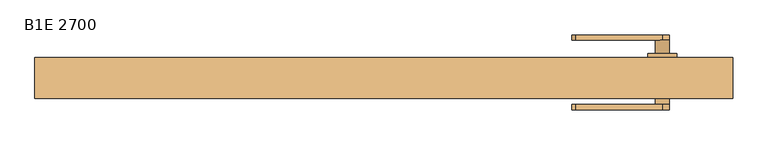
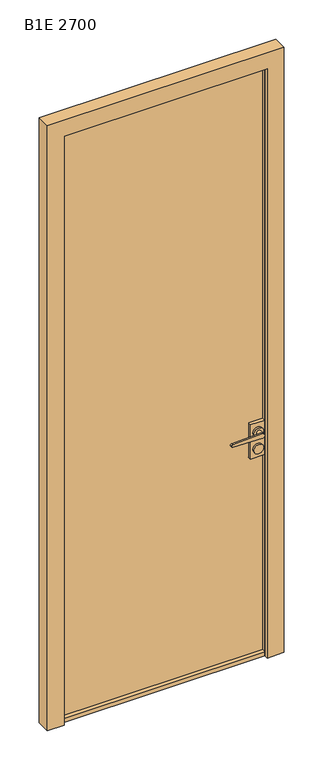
"""IFC4 building model written with IfcOpenShell, lengths in millimetres: door geometry, Mobiliário_Mobiliário de Escritório_Porta de Giro Emoldurada - BE_Marelli : B1E 2700."""

from ifc_helpers import new_model, si_unit, point, frame, frame_2d, origin, place, context, project, spatial, polyline, circle_curve, trimmed, segment, composite_curve, outline, extrude, faceted_brep, source, transform, mapped, element, save
from ifc_brep_helpers import plane_surface, cylinder_surface, advanced_brep


def b1e_2700_324aea1f(model_context):
    return source(origin(), model_context, "Body", "SolidModel", [
        extrude(outline(polyline([(-447.5, 16.5), (-429.5, 16.5), (-429.5, -25.5), (-447.5, -25.5), (-447.5, 16.5)])), frame((0.0, 0.0, 0.2), z_axis=(0.0, 0.0, 1.0), x_axis=(1.0, 0.0, 0.0)), (0.0, 0.0, 1.0), 2648.3),
        extrude(outline(polyline([(447.5, 16.5), (447.5, -25.5), (429.5, -25.5), (429.5, 16.5), (447.5, 16.5)])), frame((0.0, 0.0, 0.2), z_axis=(0.0, 0.0, 1.0), x_axis=(1.0, 0.0, 0.0)), (0.0, 0.0, 1.0), 2648.3),
        extrude(outline(polyline([(2630.5, 429.5), (2630.5, -429.5), (18.2, -429.5), (18.2, 429.5), (896.8, 429.5), (896.8, 369.5), (1050.0, 369.5), (1050.0, 429.5), (2630.5, 429.5)])), frame((0.0, -8.5, 0.0), z_axis=(0.0, 1.0, 0.0), x_axis=(0.0, 0.0, 1.0)), (0.0, 0.0, 1.0), 8.0),
        faceted_brep([(-500.0, -42.5, 0.0), (-500.0, 16.5, 0.0), (-450.0, 16.5, 0.0), (-450.0, -27.0, 0.0), (-429.0, -27.0, 0.0), (-429.0, -42.5, 0.0), (500.0, -42.5, 0.0), (429.0, -42.5, 0.0), (429.0, -27.0, 0.0), (450.0, -27.0, 0.0), (450.0, 16.5, 0.0), (500.0, 16.5, 0.0), (-500.0, -42.5, 2700.0), (-500.0, 16.5, 2700.0), (500.0, 16.5, 2700.0), (450.0, 16.5, 2650.0), (-450.0, 16.5, 2650.0), (-450.0, -27.0, 2650.0), (450.0, -27.0, 2650.0), (429.0, -27.0, 2629.0), (-429.0, -27.0, 2629.0), (-429.0, -42.5, 2629.0), (500.0, -42.5, 2700.0), (429.0, -42.5, 2629.0)], [[[0, 1, 2, 3, 4, 5]], [[6, 7, 8, 9, 10, 11]], [[0, 12, 13, 1]], [[13, 14, 11, 10, 15, 16, 2, 1]], [[17, 3, 2, 16]], [[4, 3, 17, 18, 9, 8, 19, 20]], [[5, 4, 20, 21]], [[22, 12, 0, 5, 21, 23, 7, 6]], [[8, 7, 23, 19]], [[10, 9, 18, 15]], [[14, 22, 6, 11]], [[22, 14, 13, 12]], [[20, 19, 23, 21]], [[16, 15, 18, 17]]]),
        extrude(outline(polyline([(429.5, 16.5), (429.5, -25.5), (-429.5, -25.5), (-429.5, 16.5), (429.5, 16.5)])), frame((0.0, 0.0, 2630.5), z_axis=(0.0, 0.0, 1.0), x_axis=(1.0, 0.0, 0.0)), (0.0, 0.0, 1.0), 18.0),
        extrude(outline(polyline([(369.5, -23.55), (369.5, 14.55), (429.5, 14.55), (429.5, -23.55), (369.5, -23.55)])), frame((0.0, 0.0, 896.8), z_axis=(0.0, 0.0, 1.0), x_axis=(1.0, 0.0, 0.0)), (0.0, 0.0, 1.0), 153.2),
        extrude(outline(polyline([(429.5, 16.5), (429.5, -25.5), (-429.5, -25.5), (-429.5, 16.5), (429.5, 16.5)])), frame((0.0, 0.0, 0.2), z_axis=(0.0, 0.0, 1.0), x_axis=(1.0, 0.0, 0.0)), (0.0, 0.0, 1.0), 18.0),
        extrude(outline(composite_curve([segment(trimmed(circle_curve(frame_2d((936.55, 399.5)), 20.75), [point((936.55, 378.75))], [point((936.55, 420.25))], False, "CARTESIAN"), True, "CONTINUOUS"), segment(trimmed(circle_curve(frame_2d((936.55, 399.5)), 20.75), [point((936.55, 420.25))], [point((936.55, 378.75))], False, "CARTESIAN"), True, "CONTINUOUS")], self_intersect=False)), frame((0.0, 14.55, 0.0), z_axis=(0.0, 1.0, 0.0), x_axis=(0.0, 0.0, 1.0)), (0.0, 0.0, 1.0), 8.0),
        extrude(outline(composite_curve([segment(trimmed(circle_curve(frame_2d((936.55, 399.5)), 20.75), [point((936.55, 378.75))], [point((936.55, 420.25))], False, "CARTESIAN"), True, "CONTINUOUS"), segment(trimmed(circle_curve(frame_2d((936.55, 399.5)), 20.75), [point((936.55, 420.25))], [point((936.55, 378.75))], False, "CARTESIAN"), True, "CONTINUOUS")], self_intersect=False)), frame((0.0, -31.55, 0.0), z_axis=(0.0, 1.0, 0.0), x_axis=(0.0, 0.0, 1.0)), (0.0, 0.0, 1.0), 8.0),
        extrude(outline(composite_curve([segment(trimmed(circle_curve(frame_2d((1010.25, 399.5)), 20.75), [point((1010.25, 378.75))], [point((1010.25, 420.25))], False, "CARTESIAN"), True, "CONTINUOUS"), segment(trimmed(circle_curve(frame_2d((1010.25, 399.5)), 20.75), [point((1010.25, 420.25))], [point((1010.25, 378.75))], False, "CARTESIAN"), True, "CONTINUOUS")], self_intersect=False)), frame((0.0, -31.55, 0.0), z_axis=(0.0, 1.0, 0.0), x_axis=(0.0, 0.0, 1.0)), (0.0, 0.0, 1.0), 8.0),
        extrude(outline(composite_curve([segment(trimmed(circle_curve(frame_2d((1010.25, 399.5)), 20.75), [point((1010.25, 378.75))], [point((1010.25, 420.25))], False, "CARTESIAN"), True, "CONTINUOUS"), segment(trimmed(circle_curve(frame_2d((1010.25, 399.5)), 20.75), [point((1010.25, 420.25))], [point((1010.25, 378.75))], False, "CARTESIAN"), True, "CONTINUOUS")], self_intersect=False)), frame((0.0, 14.55, 0.0), z_axis=(0.0, 1.0, 0.0), x_axis=(0.0, 0.0, 1.0)), (0.0, 0.0, 1.0), 8.0),
        advanced_brep(
        [(389.5, 22.55, 1010.25), (409.5, 22.55, 1010.25), (409.5, 41.55, 1010.25), (399.0996794, 41.55, 1020.241984), (389.5, 41.55, 1010.25), (399.0996794, 41.55, 1000.258016), (274.5, 41.55, 1015.25), (274.5, 41.55, 1005.25), (399.0996794, 49.2, 1000.258016), (274.5, 49.2, 1005.25), (274.5, 49.2, 1015.25), (399.0996794, 49.2, 1020.241984)],
        [
            (0, 1, circle_curve(frame((399.5, 22.55, 1010.25), z_axis=(0.0, -1.0, 0.0), x_axis=(1.0, 0.0, 0.0)), 10.0)),
            (1, 0, circle_curve(frame((399.5, 22.55, 1010.25), z_axis=(0.0, -1.0, 0.0), x_axis=(1.0, 0.0, 0.0)), 10.0)),
            (1, 2),
            (2, 3, circle_curve(frame((399.5, 41.55, 1010.25), z_axis=(0.0, -1.0, 0.0), x_axis=(1.0, 0.0, 0.0)), 10.0)),
            (3, 4, circle_curve(frame((399.5, 41.55, 1010.25), z_axis=(0.0, -1.0, 0.0), x_axis=(1.0, 0.0, 0.0)), 10.0)),
            (4, 0),
            (4, 5, circle_curve(frame((399.5, 41.55, 1010.25), z_axis=(0.0, -1.0, 0.0), x_axis=(1.0, 0.0, 0.0)), 10.0)),
            (5, 2, circle_curve(frame((399.5, 41.55, 1010.25), z_axis=(0.0, -1.0, 0.0), x_axis=(1.0, 0.0, 0.0)), 10.0)),
            (3, 6),
            (6, 7, circle_curve(frame((274.5, 41.55, 1010.25), z_axis=(0.0, -1.0, 0.0), x_axis=(1.0, 0.0, 0.0)), 5.0)),
            (7, 5),
            (8, 9),
            (9, 10, circle_curve(frame((274.5, 49.2, 1010.25), z_axis=(0.0, 1.0, 0.0), x_axis=(1.0, 0.0, 0.0)), 5.0)),
            (10, 11),
            (11, 8, circle_curve(frame((399.5, 49.2, 1010.25), z_axis=(0.0, 1.0, 0.0), x_axis=(1.0, 0.0, 0.0)), 10.0)),
            (7, 9),
            (8, 5),
            (6, 10),
            (3, 11),
        ],
        [
            plane_surface(frame((409.5, 22.55, 1010.25), z_axis=(0.0, -1.0, 0.0), x_axis=(0.0, 0.0, 1.0))),
            cylinder_surface(frame((399.5, 22.55, 1010.25), z_axis=(0.0, 1.0, 0.0), x_axis=(1.0, 0.0, 0.0)), 10.0),
            plane_surface(frame((399.0996794, 41.55, 1000.258016), z_axis=(0.0, -1.0, 0.0), x_axis=(0.9991983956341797, 0.0, -0.0400320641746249))),
            plane_surface(frame((399.0996794, 49.2, 1000.258016), z_axis=(0.0, 1.0, 0.0), x_axis=(-0.9991983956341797, 0.0, 0.0400320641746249))),
            plane_surface(frame((399.0996794, 49.2, 1000.258016), z_axis=(-0.0400320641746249, 0.0, -0.9991983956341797), x_axis=(0.0, -1.0, 0.0))),
            cylinder_surface(frame((274.5, 41.55, 1010.25), z_axis=(0.0, 1.0, 0.0), x_axis=(1.0, 0.0, 0.0)), 5.0),
            plane_surface(frame((274.5, 49.2, 1015.25), z_axis=(-0.04003206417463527, 0.0, 0.9991983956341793), x_axis=(0.0, -1.0, 0.0))),
            cylinder_surface(frame((399.5, 41.55, 1010.25), z_axis=(0.0, 1.0, 0.0), x_axis=(1.0, 0.0, 0.0)), 10.0),
        ],
        [
            (0, [[1, 2]]),
            (1, [[-2, 3, 4, 5, 6]]),
            (1, [[-1, -6, 7, 8, -3]]),
            (2, [[9, 10, 11, -7, -5]]),
            (3, [[12, 13, 14, 15]]),
            (4, [[-11, 16, -12, 17]]),
            (5, [[-10, 18, -13, -16]]),
            (6, [[-9, 19, -14, -18]]),
            (7, [[-15, -19, -4, -8, -17]]),
        ],
    ),
        advanced_brep(
        [(399.0996794, -50.55, 1000.258016), (274.5, -50.55, 1005.25), (274.5, -50.55, 1015.25), (399.0996794, -50.55, 1020.241984), (389.5, -50.55, 1010.25), (399.0996794, -58.2, 1000.258016), (399.0996794, -58.2, 1020.241984), (274.5, -58.2, 1015.25), (274.5, -58.2, 1005.25), (409.5, -50.55, 1010.25), (389.5, -31.55, 1010.25), (409.5, -31.55, 1010.25)],
        [
            (0, 1),
            (1, 2, circle_curve(frame((274.5, -50.55, 1010.25), z_axis=(0.0, 1.0, 0.0), x_axis=(1.0, 0.0, 0.0)), 5.0)),
            (2, 3),
            (3, 4, circle_curve(frame((399.5, -50.55, 1010.25), z_axis=(0.0, -1.0, 0.0), x_axis=(1.0, 0.0, 0.0)), 10.0)),
            (4, 0, circle_curve(frame((399.5, -50.55, 1010.25), z_axis=(0.0, -1.0, 0.0), x_axis=(1.0, 0.0, 0.0)), 10.0)),
            (5, 6, circle_curve(frame((399.5, -58.2, 1010.25), z_axis=(0.0, -1.0, 0.0), x_axis=(1.0, 0.0, 0.0)), 10.0)),
            (6, 7),
            (7, 8, circle_curve(frame((274.5, -58.2, 1010.25), z_axis=(0.0, -1.0, 0.0), x_axis=(1.0, 0.0, 0.0)), 5.0)),
            (8, 5),
            (0, 5),
            (8, 1),
            (7, 2),
            (6, 3),
            (0, 9, circle_curve(frame((399.5, -50.55, 1010.25), z_axis=(0.0, -1.0, 0.0), x_axis=(1.0, 0.0, 0.0)), 10.0)),
            (9, 3, circle_curve(frame((399.5, -50.55, 1010.25), z_axis=(0.0, -1.0, 0.0), x_axis=(1.0, 0.0, 0.0)), 10.0)),
            (10, 11, circle_curve(frame((399.5, -31.55, 1010.25), z_axis=(0.0, 1.0, 0.0), x_axis=(1.0, 0.0, 0.0)), 10.0)),
            (11, 10, circle_curve(frame((399.5, -31.55, 1010.25), z_axis=(0.0, 1.0, 0.0), x_axis=(1.0, 0.0, 0.0)), 10.0)),
            (10, 4),
            (9, 11),
        ],
        [
            plane_surface(frame((409.5, -50.55, 1010.25), z_axis=(0.0, 1.0, 0.0), x_axis=(0.0, 0.0, -1.0))),
            plane_surface(frame((409.5, -58.2, 1010.25), z_axis=(0.0, -1.0, 0.0), x_axis=(0.0, 0.0, 1.0))),
            plane_surface(frame((274.5, -58.2, 1005.25), z_axis=(-0.04003206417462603, 0.0, -0.9991983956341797), x_axis=(0.0, 1.0, 0.0))),
            cylinder_surface(frame((274.5, -50.55, 1010.25), z_axis=(0.0, -1.0, 0.0), x_axis=(1.0, 0.0, 0.0)), 5.0),
            plane_surface(frame((399.0996794, -58.2, 1020.241984), z_axis=(-0.04003206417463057, 0.0, 0.9991983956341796), x_axis=(0.0, 1.0, 0.0))),
            cylinder_surface(frame((399.5, -50.55, 1010.25), z_axis=(0.0, -1.0, 0.0), x_axis=(1.0, 0.0, 0.0)), 10.0),
            plane_surface(frame((409.5, -31.55, 1010.25), z_axis=(0.0, 1.0, 0.0), x_axis=(0.0, 0.0, -1.0))),
            cylinder_surface(frame((399.5, -31.55, 1010.25), z_axis=(0.0, -1.0, 0.0), x_axis=(1.0, 0.0, 0.0)), 10.0),
        ],
        [
            (0, [[1, 2, 3, 4, 5]]),
            (1, [[6, 7, 8, 9]]),
            (2, [[-1, 10, -9, 11]]),
            (3, [[-2, -11, -8, 12]]),
            (4, [[-3, -12, -7, 13]]),
            (5, [[-6, -10, 14, 15, -13]]),
            (6, [[16, 17]]),
            (7, [[-16, 18, -4, -15, 19]]),
            (7, [[-17, -19, -14, -5, -18]]),
        ],
    ),
    ])


if __name__ == "__main__":
    model = new_model("IFC4")
    model_context = context("Model", 3, world=origin())
    ifc_project = project(units=[si_unit("LENGTHUNIT", "METRE", prefix="MILLI")], contexts=[model_context])
    site = spatial("IfcSite", under=ifc_project)
    building = spatial("IfcBuilding", under=site)
    placement = place(None, origin())
    b1e_2700_shape = b1e_2700_324aea1f(model_context)
    element("IfcDoor", 1, ObjectType="Mobiliário_Mobiliário de Escritório_Porta de Giro Emoldurada - BE_Marelli : B1E 2700", at=placement, inside=building, context=model_context, shape_type="MappedRepresentation", body=[
        mapped(b1e_2700_shape, transform((0.0, 0.0, 0.0), x_axis=(1.0, 0.0, 0.0), y_axis=(0.0, 1.0, 0.0), z_axis=(0.0, 0.0, 1.0))),
    ])
    save(model, "model.ifc")
